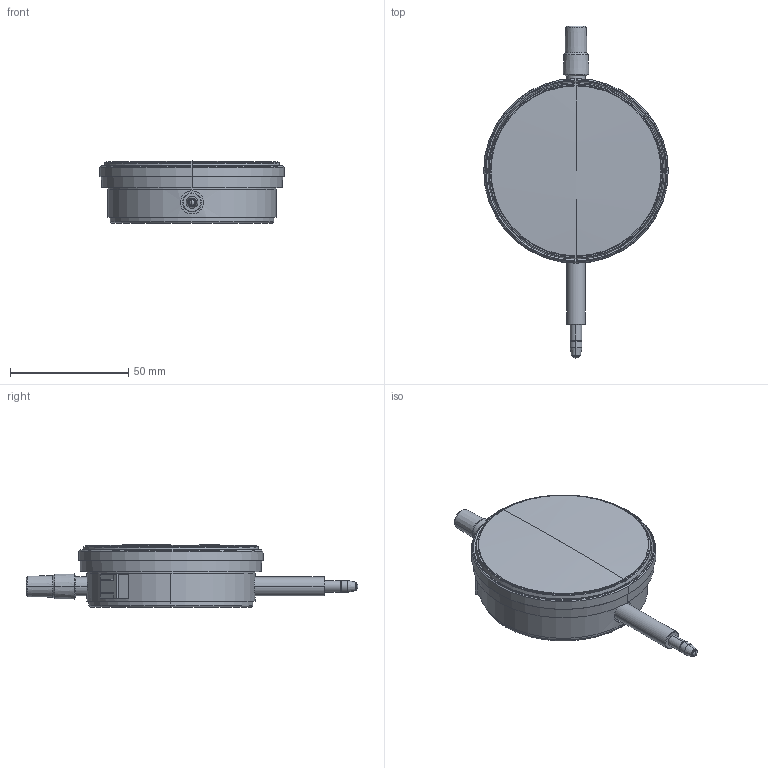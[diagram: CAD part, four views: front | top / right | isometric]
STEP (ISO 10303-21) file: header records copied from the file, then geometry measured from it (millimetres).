
FILE_DESCRIPTION(('Creo Elements/Direct Modeling STEP Export'),'2;1');
FILE_NAME('3109SB-10.stp','2020-03-23T11:08:25',(''),(''),'Creo Elements/Direct Modeling STEP processor for AP214 (Solid Model)','Creo Elements/Direct Modeling 18.1I 13-Aug-2016 (C) Parametric Technology GmbH','');
FILE_SCHEMA(('AUTOMOTIVE_DESIGN { 1 0 10303 214 1 1 1 1 }'));
Length unit declared in the file: millimetre
Products named in the file (2): 3109SB-10
Assembly tree (1 placements, depth 2):
  3109SB-10
    3109SB-10
Bounding box: 77.99 x 140.2 x 26.6 mm (x, y, z)
Volume: 114643.7 mm3; surface area: 17469.7 mm2
Topology: 1 solids, 1 shells, 130 faces, 309 edges, 193 vertices
Faces by surface type: plane 42, cylinder 38, cone 32, torus 14, sphere 4
Entity records: 4586 total; most frequent: CARTESIAN_POINT 1711, ORIENTED_EDGE 610, DIRECTION 574, EDGE_CURVE 305, AXIS2_PLACEMENT_3D 221, VERTEX_POINT 193, EDGE_LOOP 146, VECTOR 132
